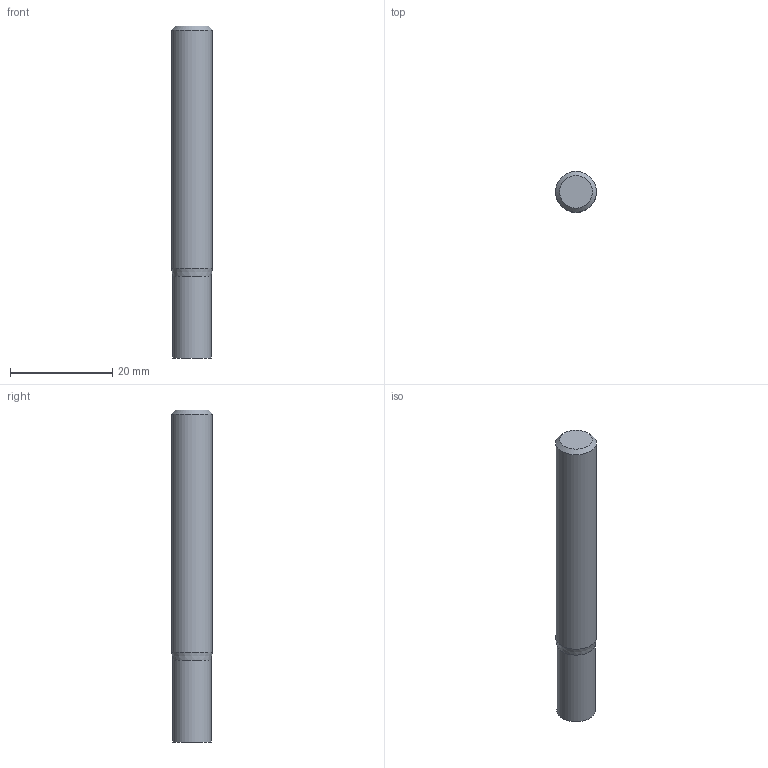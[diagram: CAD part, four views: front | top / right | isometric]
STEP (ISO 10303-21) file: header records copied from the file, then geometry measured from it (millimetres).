
FILE_DESCRIPTION((''),'2;1');
FILE_NAME('C:\Users\nsx150\AppData\Local\Temp\Mastercam 2021\98T1Q6BTT1\TEMP.step','2021-10-21T14:49:25',(''),(''),'STEP Write','Mastercam 2021 ... CNC Software, Inc.','');
FILE_SCHEMA(('AUTOMOTIVE_DESIGN'));
Length unit declared in the file: millimetre
Products named in the file (1): None
Bounding box: 8 x 8 x 65 mm (x, y, z)
Volume: 3157.5 mm3; surface area: 1777.9 mm2
Topology: 2 solids, 2 shells, 8 faces, 10 edges, 6 vertices
Faces by surface type: plane 4, cylinder 2, cone 2
Full cylindrical faces by diameter (mm): 7.5 x1, 8 x1
Entity records: 190 total; most frequent: DIRECTION 32, CARTESIAN_POINT 22, AXIS2_PLACEMENT_3D 16, ORIENTED_EDGE 12, EDGE_LOOP 12, STYLED_ITEM 11, ADVANCED_FACE 8, VERTEX_POINT 6
